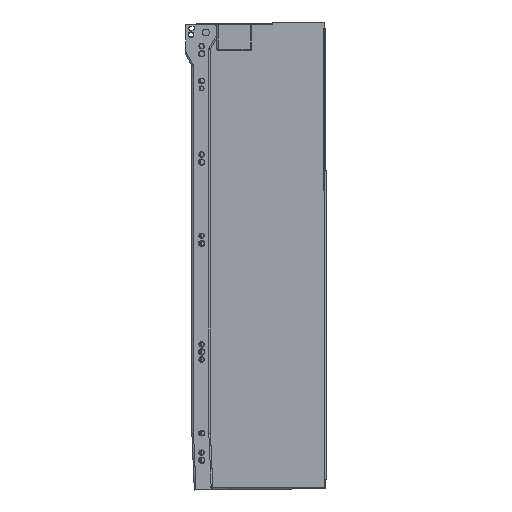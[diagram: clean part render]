
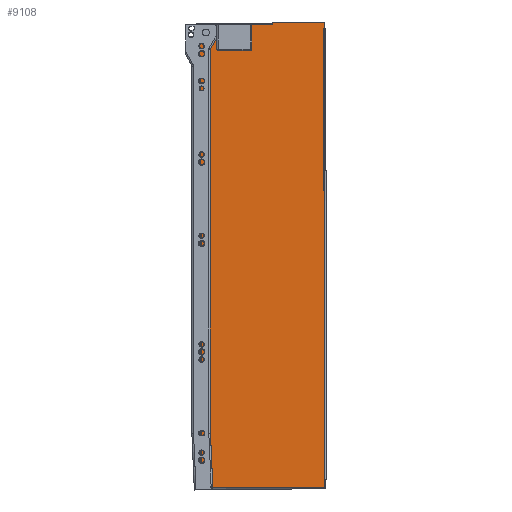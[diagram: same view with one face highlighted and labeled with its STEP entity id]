
A CAD part, left-side view. The second image highlights one B-rep face of the part: STEP entity #9108.
In plain terms, the highlighted planar face has unit normal (-1, 0, 0) as drawn and (0, 0, -1) by its records, which use the part's own axes.
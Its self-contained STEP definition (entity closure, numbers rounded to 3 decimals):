
#728=LINE('',#14636,#1450);
#732=LINE('',#14654,#1454);
#733=LINE('',#14656,#1455);
#734=LINE('',#14658,#1456);
#735=LINE('',#14660,#1457);
#736=LINE('',#14662,#1458);
#737=LINE('',#14664,#1459);
#738=LINE('',#14666,#1460);
#739=LINE('',#14670,#1461);
#740=LINE('',#14673,#1462);
#1450=VECTOR('',#11873,149.928);
#1454=VECTOR('',#11883,549.4);
#1455=VECTOR('',#11884,60.576);
#1456=VECTOR('',#11885,3.2);
#1457=VECTOR('',#11886,87.458);
#1458=VECTOR('',#11887,55.801);
#1459=VECTOR('',#11888,469.152);
#1460=VECTOR('',#11889,1.6);
#1461=VECTOR('',#11892,1.3);
#1462=VECTOR('',#11895,15.5);
#1881=PLANE('',#9913);
#2136=FACE_BOUND('',#3150,.T.);
#2508=FACE_OUTER_BOUND('',#3149,.T.);
#3149=EDGE_LOOP('',(#7236,#7237,#7238,#7239,#7240,#7241,#7242,#7243,#7244,
#7245,#7246,#7247,#7248));
#3150=EDGE_LOOP('',(#7249));
#3704=CIRCLE('',#9912,2.);
#3705=CIRCLE('',#9914,1.2);
#3706=CIRCLE('',#9915,2.);
#3707=CIRCLE('',#9916,3.5);
#4354=VERTEX_POINT('',#14630);
#4355=VERTEX_POINT('',#14635);
#4357=VERTEX_POINT('',#14648);
#4358=VERTEX_POINT('',#14653);
#4359=VERTEX_POINT('',#14655);
#4360=VERTEX_POINT('',#14657);
#4361=VERTEX_POINT('',#14659);
#4362=VERTEX_POINT('',#14661);
#4363=VERTEX_POINT('',#14663);
#4364=VERTEX_POINT('',#14665);
#4365=VERTEX_POINT('',#14667);
#4366=VERTEX_POINT('',#14669);
#4367=VERTEX_POINT('',#14671);
#4368=VERTEX_POINT('',#14674);
#5384=EDGE_CURVE('',#4354,#4355,#728,.T.);
#5387=EDGE_CURVE('',#4355,#4357,#3704,.T.);
#5390=EDGE_CURVE('',#4358,#4354,#732,.T.);
#5391=EDGE_CURVE('',#4359,#4358,#733,.T.);
#5392=EDGE_CURVE('',#4359,#4360,#734,.T.);
#5393=EDGE_CURVE('',#4360,#4361,#735,.T.);
#5394=EDGE_CURVE('',#4362,#4361,#736,.T.);
#5395=EDGE_CURVE('',#4363,#4362,#737,.T.);
#5396=EDGE_CURVE('',#4363,#4364,#738,.T.);
#5397=EDGE_CURVE('',#4365,#4364,#3705,.T.);
#5398=EDGE_CURVE('',#4366,#4365,#739,.T.);
#5399=EDGE_CURVE('',#4367,#4366,#3706,.T.);
#5400=EDGE_CURVE('',#4357,#4367,#740,.T.);
#5401=EDGE_CURVE('',#4368,#4368,#3707,.T.);
#7236=ORIENTED_EDGE('',*,*,#5384,.F.);
#7237=ORIENTED_EDGE('',*,*,#5390,.F.);
#7238=ORIENTED_EDGE('',*,*,#5391,.F.);
#7239=ORIENTED_EDGE('',*,*,#5392,.T.);
#7240=ORIENTED_EDGE('',*,*,#5393,.T.);
#7241=ORIENTED_EDGE('',*,*,#5394,.F.);
#7242=ORIENTED_EDGE('',*,*,#5395,.F.);
#7243=ORIENTED_EDGE('',*,*,#5396,.T.);
#7244=ORIENTED_EDGE('',*,*,#5397,.F.);
#7245=ORIENTED_EDGE('',*,*,#5398,.F.);
#7246=ORIENTED_EDGE('',*,*,#5399,.F.);
#7247=ORIENTED_EDGE('',*,*,#5400,.F.);
#7248=ORIENTED_EDGE('',*,*,#5387,.F.);
#7249=ORIENTED_EDGE('',*,*,#5401,.T.);
#9108=ADVANCED_FACE('',(#2508,#2136),#1881,.F.);
#9912=AXIS2_PLACEMENT_3D('',#14649,#11877,#11878);
#9913=AXIS2_PLACEMENT_3D('',#14652,#11881,#11882);
#9914=AXIS2_PLACEMENT_3D('',#14668,#11890,#11891);
#9915=AXIS2_PLACEMENT_3D('',#14672,#11893,#11894);
#9916=AXIS2_PLACEMENT_3D('',#14675,#11896,#11897);
#11873=DIRECTION('',(0.,1.,0.));
#11877=DIRECTION('center_axis',(0.,0.,1.));
#11878=DIRECTION('ref_axis',(1.,0.,0.));
#11881=DIRECTION('center_axis',(0.,0.,1.));
#11882=DIRECTION('ref_axis',(1.,0.,0.));
#11883=DIRECTION('',(1.,0.,0.));
#11884=DIRECTION('',(0.,-1.,0.));
#11885=DIRECTION('',(1.,0.,0.));
#11886=DIRECTION('',(0.,1.,0.));
#11887=DIRECTION('',(-0.999,0.044,0.));
#11888=DIRECTION('',(-1.,0.,0.));
#11889=DIRECTION('',(0.,1.,0.));
#11890=DIRECTION('center_axis',(0.,0.,-1.));
#11891=DIRECTION('ref_axis',(1.,0.,0.));
#11892=DIRECTION('',(0.,-1.,0.));
#11893=DIRECTION('center_axis',(0.,0.,1.));
#11894=DIRECTION('ref_axis',(0.,1.,0.));
#11895=DIRECTION('',(-1.,0.,0.));
#11896=DIRECTION('center_axis',(0.,0.,1.));
#11897=DIRECTION('ref_axis',(-1.,0.,0.));
#14630=CARTESIAN_POINT('',(9.4,-143.,0.));
#14635=CARTESIAN_POINT('',(9.4,6.928,0.));
#14636=CARTESIAN_POINT('',(9.4,-33.937,0.));
#14648=CARTESIAN_POINT('',(8.,7.5,0.));
#14649=CARTESIAN_POINT('Origin',(8.,5.5,0.));
#14652=CARTESIAN_POINT('Origin',(-264.824,-69.574,0.));
#14653=CARTESIAN_POINT('',(-540.,-143.,0.));
#14654=CARTESIAN_POINT('',(-402.412,-143.,0.));
#14655=CARTESIAN_POINT('',(-540.,-82.424,0.));
#14656=CARTESIAN_POINT('',(-540.,7.576,0.));
#14657=CARTESIAN_POINT('',(-536.8,-82.424,0.));
#14658=CARTESIAN_POINT('',(-400.812,-82.424,0.));
#14659=CARTESIAN_POINT('',(-536.8,5.034,0.));
#14660=CARTESIAN_POINT('',(-536.8,-30.999,0.));
#14661=CARTESIAN_POINT('',(-481.052,2.6,0.));
#14662=CARTESIAN_POINT('',(-371.584,-2.179,0.));
#14663=CARTESIAN_POINT('',(-11.9,2.6,0.));
#14664=CARTESIAN_POINT('',(-138.362,2.6,0.));
#14665=CARTESIAN_POINT('',(-11.9,4.2,0.));
#14666=CARTESIAN_POINT('',(-11.9,-32.687,0.));
#14667=CARTESIAN_POINT('',(-9.5,4.2,0.));
#14668=CARTESIAN_POINT('Origin',(-10.7,4.2,0.));
#14669=CARTESIAN_POINT('',(-9.5,5.5,0.));
#14670=CARTESIAN_POINT('',(-9.5,5.5,0.));
#14671=CARTESIAN_POINT('',(-7.5,7.5,0.));
#14672=CARTESIAN_POINT('Origin',(-7.5,5.5,0.));
#14673=CARTESIAN_POINT('',(8.,7.5,0.));
#14674=CARTESIAN_POINT('',(3.5,0.,0.));
#14675=CARTESIAN_POINT('Origin',(0.,0.,0.));
